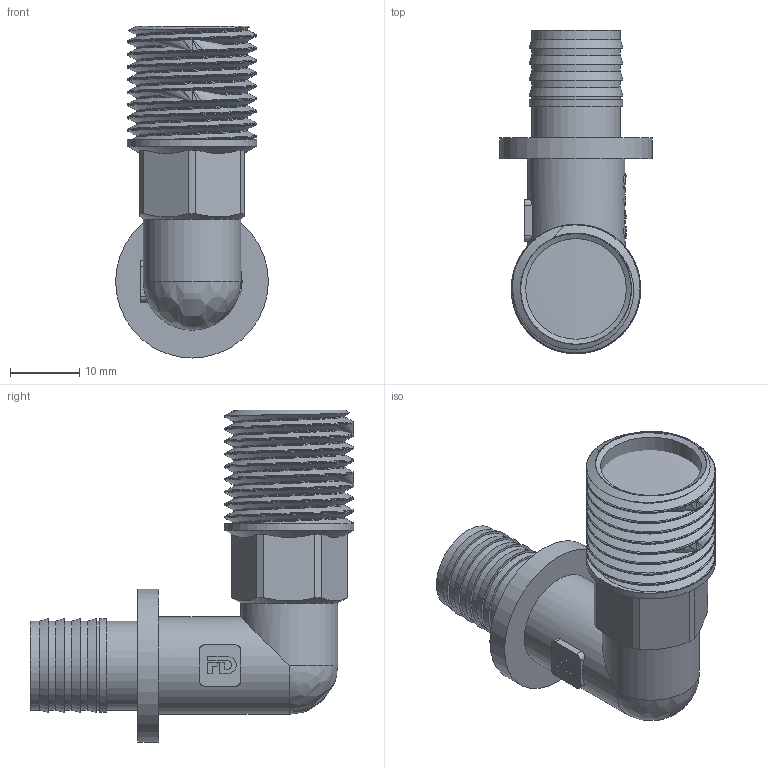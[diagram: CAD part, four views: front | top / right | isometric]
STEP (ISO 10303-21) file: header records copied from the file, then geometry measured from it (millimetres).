
FILE_DESCRIPTION(/* description */ (''),/* implementation_level */ '2;1');
FILE_NAME(/* name */ 'C:\Users\Doom\Desktop\Фадотех\Натяжка\FD-SFU11NEW 16X0.5M 18.12.2019\FD-SFU11NEW 16X0.5M 18.12.2019.stp',/* time_stamp */ '2022-07-24T22:29:22+03:00',/* author */ ('Doom'),/* organization */ (''),/* preprocessor_version */ 'ST-DEVELOPER v18',/* originating_system */ 'Autodesk Inventor 2020',/* authorisation */ '');
FILE_SCHEMA (('AUTOMOTIVE_DESIGN { 1 0 10303 214 3 1 1 }'));
Length unit declared in the file: millimetre
Products named in the file (1): FD-SFU11NEW 16X0.5M 18.12.2019
Bounding box: 22 x 46.62 x 47.8 mm (x, y, z)
Volume: 7681.1 mm3; surface area: 9485.7 mm2
Topology: 3 solids, 3 shells, 182 faces, 514 edges, 345 vertices
Faces by surface type: plane 69, bspline 62, cylinder 42, cone 9
Full cylindrical faces by diameter (mm): 9.3 x2, 12.8 x6, 13.5 x1, 14 x2, 14.5 x1, 15.94 x2, 18.63 x10, 22 x1
Entity records: 11901 total; most frequent: CARTESIAN_POINT 7588, ORIENTED_EDGE 1020, DIRECTION 681, EDGE_CURVE 510, VERTEX_POINT 345, AXIS2_PLACEMENT_3D 230, LINE 221, VECTOR 221
